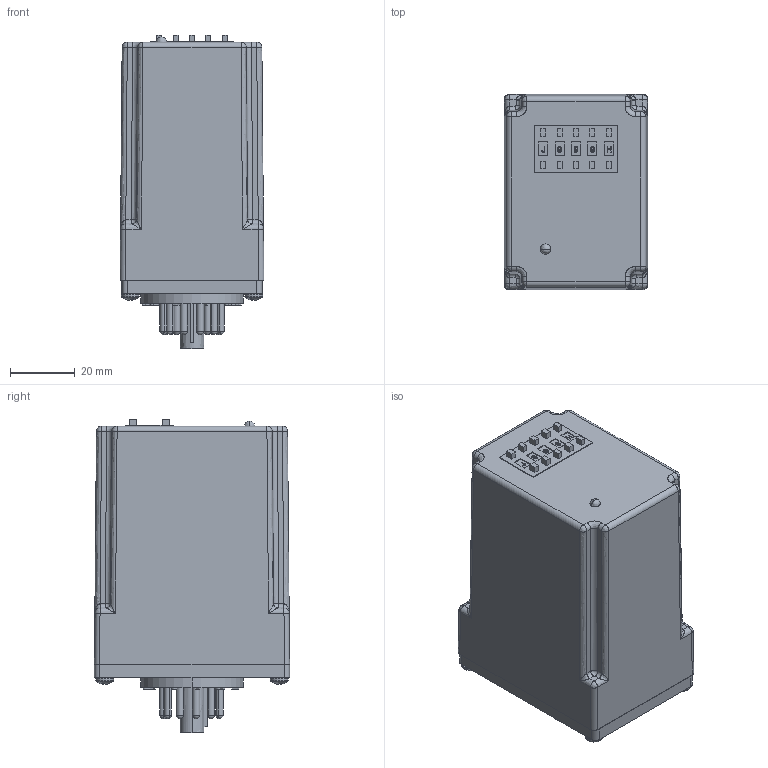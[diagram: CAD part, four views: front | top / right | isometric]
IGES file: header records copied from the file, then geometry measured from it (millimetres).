
Start section: SolidWorks IGES file using analytic representation for surfaces
Global section: file name: C:\Documents and Settings\Joshua\Desktop\eric\090413\TD-7-Multi Function.igs; native system: SolidWorks 2007; preprocessor: SolidWorks 2007; author: Joshua; date: 140904.220418; units: inch
Bounding box: 44.45 x 60.33 x 96.9 mm (x, y, z)
Surface area: 29347.2 mm2 (no closed solid volume)
Topology: 0 solids, 0 shells, 889 faces, 10613 edges, 10537 vertices
Faces by surface type: bspline 539, revolution 350
